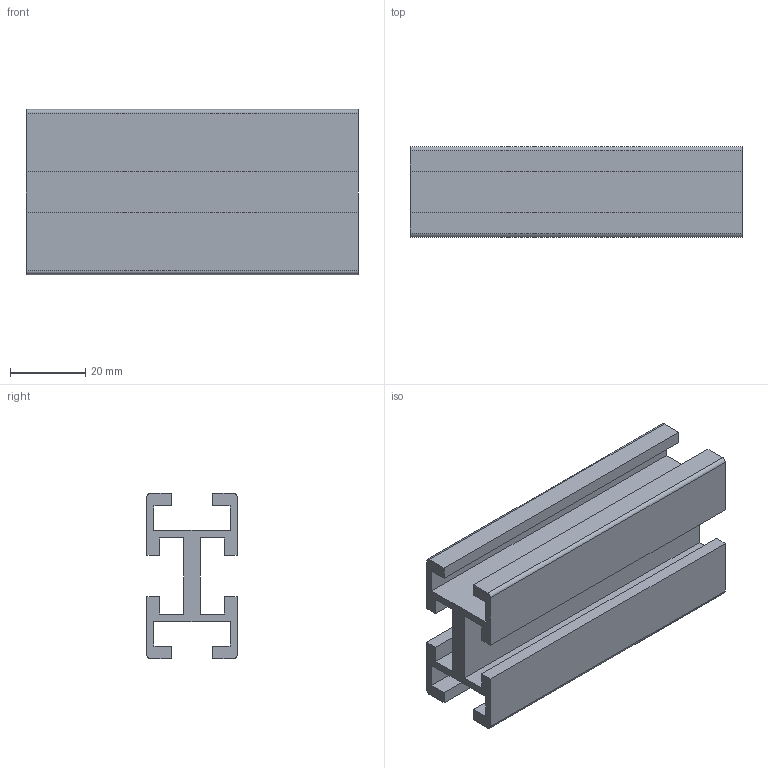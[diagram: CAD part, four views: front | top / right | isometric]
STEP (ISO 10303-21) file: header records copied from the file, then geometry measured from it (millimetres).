
FILE_DESCRIPTION (( 'STEP AP214' ), '1' );
FILE_NAME ('FBSB-24x44.STEP', '2011-11-21T12:19:11', ( '.' ), ( '' ), 'SwSTEP 2.0', 'SolidWorks 2010', '' );
FILE_SCHEMA (( 'AUTOMOTIVE_DESIGN' ));
Length unit declared in the file: millimetre
Products named in the file (1): FBSB-24x44
Bounding box: 88.42 x 24 x 44 mm (x, y, z)
Volume: 33709.5 mm3; surface area: 26146.4 mm2
Topology: 1 solids, 1 shells, 42 faces, 120 edges, 80 vertices
Faces by surface type: plane 38, cylinder 4
Entity records: 1386 total; most frequent: CARTESIAN_POINT 243, ORIENTED_EDGE 240, DIRECTION 214, EDGE_CURVE 120, VECTOR 112, LINE 112, VERTEX_POINT 80, AXIS2_PLACEMENT_3D 51
